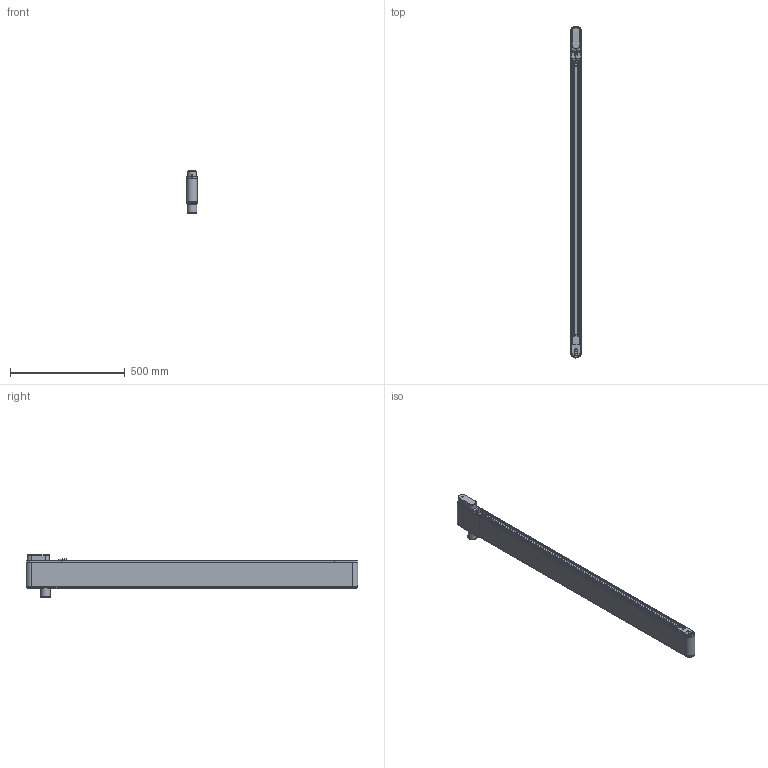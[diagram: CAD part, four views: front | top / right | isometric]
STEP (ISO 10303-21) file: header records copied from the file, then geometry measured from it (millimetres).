
FILE_DESCRIPTION(/* description */ (''),/* implementation_level */ '2;1');
FILE_NAME(/* name */ 'G:\DATEN\CAD\Förderband\Marketing\3D-Modelle (Standard)\FR-40-120-Q\FR-40-120-Q-1400-K (Motorendrohr 40 mm).stp',/* time_stamp */ '2019-05-09T08:37:13+02:00',/* author */ ('melanie.ochs'),/* organization */ (''),/* preprocessor_version */ 'ST-DEVELOPER v17',/* originating_system */ 'Autodesk Inventor 2019',/* authorisation */ '');
FILE_SCHEMA (('CONFIG_CONTROL_DESIGN'));
Length unit declared in the file: millimetre
Products named in the file (1): FR-40-120-Q-1400-K (Motorendrohr 40 mm)
Bounding box: 46.6 x 1446.6 x 185 mm (x, y, z)
Volume: 2691735.2 mm3; surface area: 1819204.3 mm2
Topology: 31 solids, 32 shells, 893 faces, 2421 edges, 1648 vertices
Faces by surface type: plane 445, cylinder 286, cone 71, bspline 61, torus 30
Full cylindrical faces by diameter (mm): 1 x6, 4 x6, 4.3 x4, 4.65 x1, 4.917 x1, 5 x11, 5.5 x8, 6 x2, 6.5 x1, 6.773 x1, 6.917 x2, 8 x7, 8.3 x20, 8.5 x8, 8.773 x1, 10 x1, 11 x1, 12 x3, 25 x2, 28 x4, 40.917 x1, 42 x1, 44 x2
Entity records: 29991 total; most frequent: CARTESIAN_POINT 6301, ORIENTED_EDGE 4806, DIRECTION 4688, EDGE_CURVE 2403, AXIS2_PLACEMENT_3D 1709, VERTEX_POINT 1648, LINE 1270, VECTOR 1270
